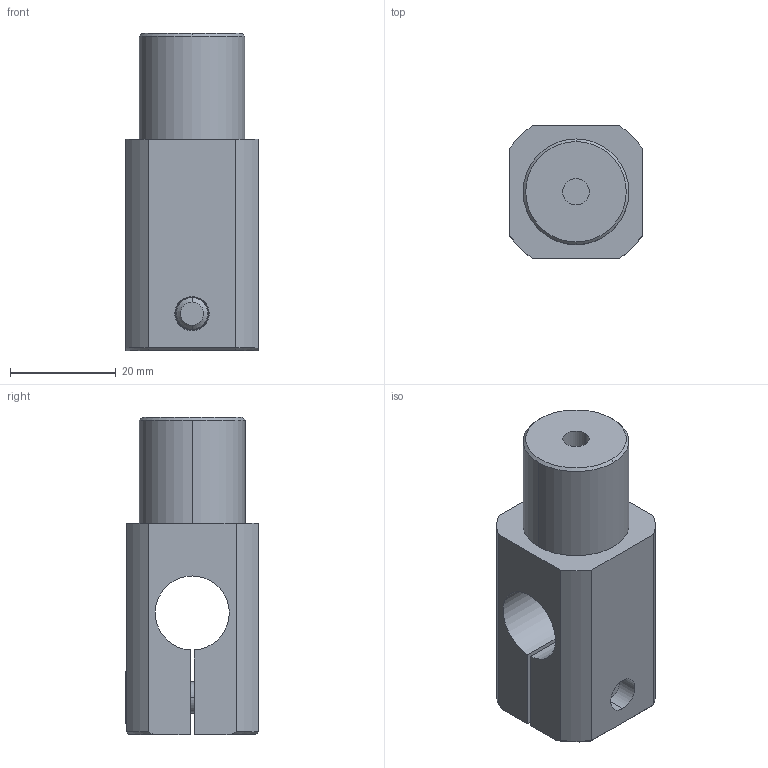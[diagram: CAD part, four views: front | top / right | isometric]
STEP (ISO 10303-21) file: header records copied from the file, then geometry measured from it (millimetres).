
FILE_DESCRIPTION (( 'STEP AP214' ), '1' );
FILE_NAME ('SMBR4-1420M6.STEP', '2019-11-07T02:03:30', ( '微软用户' ), ( '微软中国' ), 'SwSTEP 2.0', 'SolidWorks 2016', '' );
FILE_SCHEMA (( 'AUTOMOTIVE_DESIGN' ));
Length unit declared in the file: millimetre
Products named in the file (1): SMBR4-1420M6
Bounding box: 25 x 25.1 x 60 mm (x, y, z)
Volume: 25196.4 mm3; surface area: 9055.9 mm2
Topology: 3 solids, 3 shells, 203 faces, 574 edges, 380 vertices
Faces by surface type: plane 168, cylinder 23, cone 10, bspline 2
Entity records: 8955 total; most frequent: CARTESIAN_POINT 1224, DIRECTION 1170, ORIENTED_EDGE 1148, EDGE_CURVE 574, AXIS2_PLACEMENT_3D 406, VERTEX_POINT 380, VECTOR 358, LINE 358
